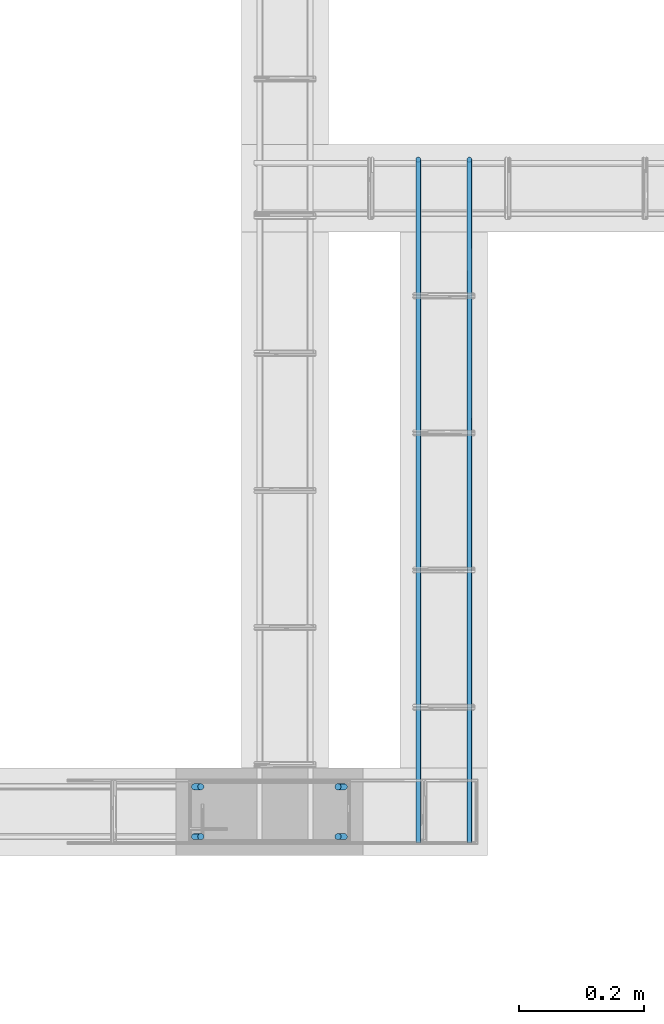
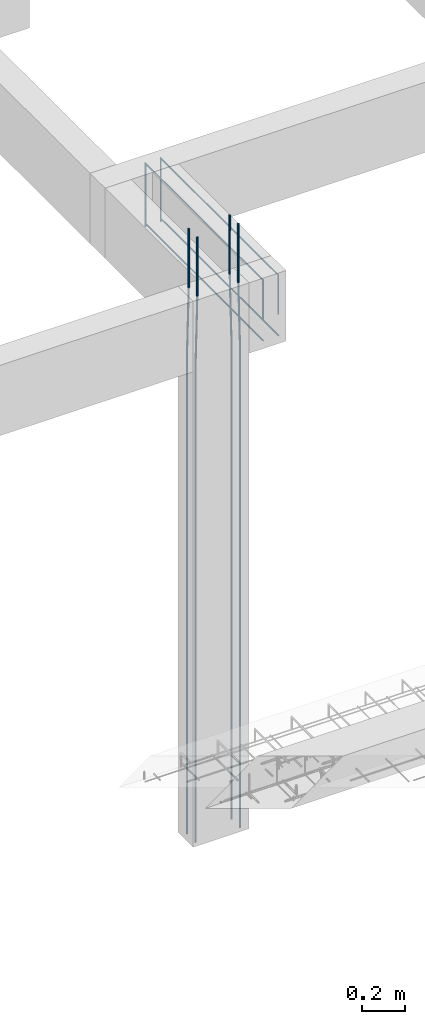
# One storey, part 47 of 236: 8 reinforcing bars.
"""IFC4 building model written with IfcOpenShell, lengths in centimetres."""

from ifc_helpers import new_model, entity, si_unit, derived_unit, frame, origin_with_axes, place, context, project, spatial, element, save


model = new_model("IFC4")

# Units and contexts
model_context = context("Model", 3, precision=1e-05, world=origin_with_axes(), identifier="Body")
ifc_project = project(units=[si_unit("LENGTHUNIT", "METRE", prefix="CENTI"), si_unit("VOLUMEUNIT", "CUBIC_METRE"), si_unit("AREAUNIT", "SQUARE_METRE"), si_unit("POWERUNIT", "WATT"), si_unit("LUMINOUSFLUXUNIT", "LUMEN"), si_unit("ELECTRICCURRENTUNIT", "AMPERE"), si_unit("PRESSUREUNIT", "PASCAL", prefix="KILO"), si_unit("MASSUNIT", "GRAM", prefix="KILO"), si_unit("PLANEANGLEUNIT", "RADIAN"), derived_unit("VOLUMETRICFLOWRATEUNIT", [(si_unit("LENGTHUNIT", "METRE"), 3), (si_unit("TIMEUNIT", "SECOND"), -1)])], contexts=[model_context])

# Site, building, storey
site_placement = place(None, frame((-4000.0, 0.0, 0.0), z_axis=(0.0, 0.0, 1.0), x_axis=(1.0, 0.0, 0.0)))
site = spatial("IfcSite", under=ifc_project, at=site_placement, Name="PADRÃO")
building_placement = place(site_placement, frame((0.0, 0.0, -14.0)))
building = spatial("IfcBuilding", under=site, at=building_placement, Name="CRECHE PRÉ-ESCOLA TIPO 2")
placement_1 = place(building_placement, origin_with_axes())
placement_2 = place(placement_1, frame((0.0, 0.0, 30.0), z_axis=(0.0, 0.0, 1.0), x_axis=(1.0, 0.0, 0.0)))
storey_placement = place(placement_2, frame((0.0, 0.0, 310.0), z_axis=(0.0, 0.0, 1.0), x_axis=(1.0, 0.0, 0.0)))
storey = spatial("IfcBuildingStorey", under=building, at=storey_placement, Name="TERREO", CompositionType="ELEMENT", Elevation=326.0)

# Reinforcing bars
for number, where, z_axis, x_axis, name in (
    (1, (3147.5, 411.01, 33.3573001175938), (0.0, 0.0, 1.0), (1.0, 0.0, 0.0), "P148 - Longitudinal"),
    (2, (3147.5, 419.01, 33.3573001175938), (0.0, 0.0, 1.0), (1.0, 0.0, 0.0), "P148 - Longitudinal"),
):
    element("IfcReinforcingBar", number, at=place(storey_placement, frame(where, z_axis=z_axis, x_axis=x_axis)), inside=storey, Name=name, BarLength=0.0, CrossSectionArea=7.853981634e-05, NominalDiameter=1.0, PredefinedType="MAIN", context=model_context, shape_type="AdvancedSweptSolid", body=[
        entity("IfcSweptDiskSolid", entity("IfcCompositeCurve", [entity("IfcCompositeCurveSegment", "CONTINUOUS", True, entity("IfcPolyline", [entity("IfcCartesianPoint", [0.5, 0.0, -343.357300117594]), entity("IfcCartesianPoint", [0.5, 0.0, -73.3573001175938])])), entity("IfcCompositeCurveSegment", "CONTINUOUS", True, entity("IfcPolyline", [entity("IfcCartesianPoint", [0.5, 0.0, -73.3573001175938]), entity("IfcCartesianPoint", [-0.5, 0.0, -33.3573001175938])])), entity("IfcCompositeCurveSegment", "CONTINUOUS", True, entity("IfcPolyline", [entity("IfcCartesianPoint", [-0.5, 0.0, -33.3573001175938]), entity("IfcCartesianPoint", [-0.5, 0.0, 0.0])]))], False), 0.5),
    ])
for number, where, z_axis, x_axis, name in (
    (3, (3124.5, 411.01, 33.3573001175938), (0.0, 0.0, 1.0), (1.0, 0.0, 0.0), "P148 - Longitudinal"),
    (4, (3124.5, 419.01, 33.3573001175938), (0.0, 0.0, 1.0), (1.0, 0.0, 0.0), "P148 - Longitudinal"),
):
    element("IfcReinforcingBar", number, at=place(storey_placement, frame(where, z_axis=z_axis, x_axis=x_axis)), inside=storey, Name=name, BarLength=0.0, CrossSectionArea=7.853981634e-05, NominalDiameter=1.0, PredefinedType="MAIN", context=model_context, shape_type="AdvancedSweptSolid", body=[
        entity("IfcSweptDiskSolid", entity("IfcCompositeCurve", [entity("IfcCompositeCurveSegment", "CONTINUOUS", True, entity("IfcPolyline", [entity("IfcCartesianPoint", [-0.5, 0.0, -343.357300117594]), entity("IfcCartesianPoint", [-0.5, 0.0, -73.3573001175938])])), entity("IfcCompositeCurveSegment", "CONTINUOUS", True, entity("IfcPolyline", [entity("IfcCartesianPoint", [-0.5, 0.0, -73.3573001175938]), entity("IfcCartesianPoint", [0.5, 0.0, -33.3573001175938])])), entity("IfcCompositeCurveSegment", "CONTINUOUS", True, entity("IfcPolyline", [entity("IfcCartesianPoint", [0.5, 0.0, -33.3573001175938]), entity("IfcCartesianPoint", [0.5, 0.0, 0.0])]))], False), 0.5),
    ])
for number, where, z_axis, x_axis, name in (
    (5, (3168.08, 465.0118751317, -27.1), (0.0, 0.0, 1.0), (1.0, 0.0, 0.0), "V304 - Longitudinal inferior"),
    (6, (3159.88, 465.0118751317, -27.1), (0.0, 0.0, 1.0), (1.0, 0.0, 0.0), "V304 - Longitudinal inferior"),
):
    element("IfcReinforcingBar", number, at=place(storey_placement, frame(where, z_axis=z_axis, x_axis=x_axis)), inside=storey, Name=name, BarLength=0.0, CrossSectionArea=5.0265482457e-05, NominalDiameter=0.8, PredefinedType="MAIN", context=model_context, shape_type="AdvancedSweptSolid", body=[
        entity("IfcSweptDiskSolid", entity("IfcCompositeCurve", [entity("IfcCompositeCurveSegment", "CONTINUOUS", True, entity("IfcPolyline", [entity("IfcCartesianPoint", [0.0, -55.0018751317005, -10.0]), entity("IfcCartesianPoint", [0.0, 54.5981248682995, -10.0])])), entity("IfcCompositeCurveSegment", "CONTINUOUS", True, entity("IfcPolyline", [entity("IfcCartesianPoint", [0.0, 54.5981248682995, -10.0]), entity("IfcCartesianPoint", [0.0, 54.5981248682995, 0.0])]))], False), 0.4),
    ])
for number, where, z_axis, x_axis, name in (
    (7, (3159.88, 465.01, -2.49624973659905), (0.0, 0.0, 1.0), (1.0, 0.0, 0.0), "V304 - Longitudinal superior"),
    (8, (3168.08, 465.01, -2.49624973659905), (0.0, 0.0, 1.0), (1.0, 0.0, 0.0), "V304 - Longitudinal superior"),
):
    element("IfcReinforcingBar", number, at=place(storey_placement, frame(where, z_axis=z_axis, x_axis=x_axis)), inside=storey, Name=name, BarLength=0.0, CrossSectionArea=5.0265482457e-05, NominalDiameter=0.8, PredefinedType="MAIN", context=model_context, shape_type="AdvancedSweptSolid", body=[
        entity("IfcSweptDiskSolid", entity("IfcCompositeCurve", [entity("IfcCompositeCurveSegment", "CONTINUOUS", True, entity("IfcPolyline", [entity("IfcCartesianPoint", [0.0, -54.6, -22.7014629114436]), entity("IfcCartesianPoint", [0.0, -54.6, -0.403750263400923])])), entity("IfcCompositeCurveSegment", "CONTINUOUS", True, entity("IfcPolyline", [entity("IfcCartesianPoint", [0.0, -54.6, -0.403750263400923]), entity("IfcCartesianPoint", [0.0, 54.6, -0.403750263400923])])), entity("IfcCompositeCurveSegment", "CONTINUOUS", True, entity("IfcPolyline", [entity("IfcCartesianPoint", [0.0, 54.6, -0.403750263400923]), entity("IfcCartesianPoint", [0.0, 54.6, -36.4037502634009])]))], False), 0.4),
    ])

save(model, "model.ifc")
